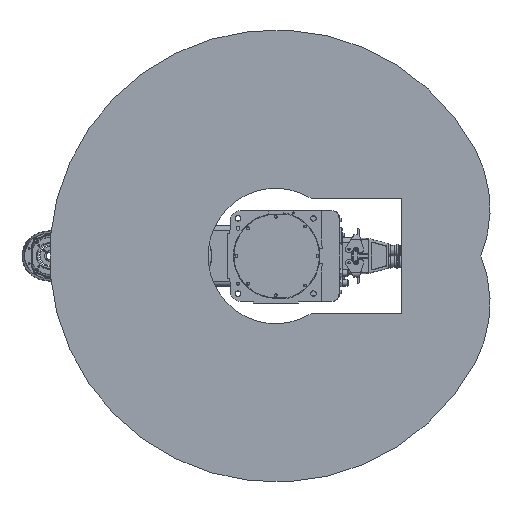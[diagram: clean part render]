
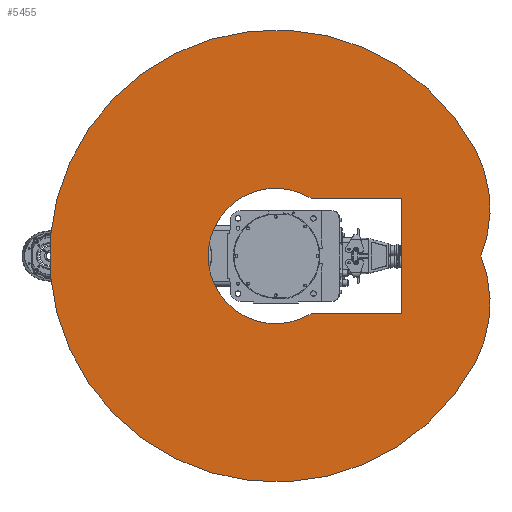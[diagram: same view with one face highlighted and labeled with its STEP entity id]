
A CAD part, front view. The second image highlights one B-rep face of the part: STEP entity #5455.
In plain terms, the highlighted planar face has unit normal (0, -1, 0).
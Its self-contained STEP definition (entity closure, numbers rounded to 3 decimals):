
#5455 = ADVANCED_FACE( '', ( #12805, #12806 ), #12807, .F. );
#12805 = FACE_OUTER_BOUND( '', #22555, .T. );
#12806 = FACE_BOUND( '', #22556, .T. );
#12807 = PLANE( '', #22557 );
#22555 = EDGE_LOOP( '', ( #38520, #38521, #38522 ) );
#22556 = EDGE_LOOP( '', ( #38523, #38524, #38525, #38526 ) );
#22557 = AXIS2_PLACEMENT_3D( '', #38527, #38528, #38529 );
#38520 = ORIENTED_EDGE( '', *, *, #56108, .F. );
#38521 = ORIENTED_EDGE( '', *, *, #55784, .F. );
#38522 = ORIENTED_EDGE( '', *, *, #56109, .F. );
#38523 = ORIENTED_EDGE( '', *, *, #56110, .T. );
#38524 = ORIENTED_EDGE( '', *, *, #56111, .T. );
#38525 = ORIENTED_EDGE( '', *, *, #53435, .T. );
#38526 = ORIENTED_EDGE( '', *, *, #56112, .T. );
#38527 = CARTESIAN_POINT( '', ( 46.947, 0., 88.295 ) );
#38528 = DIRECTION( '', ( 0., 1., 0. ) );
#38529 = DIRECTION( '', ( 0., 0., 1. ) );
#53435 = EDGE_CURVE( '', #64168, #64169, #64170, .T. );
#55784 = EDGE_CURVE( '', #67715, #67716, #67717, .T. );
#56108 = EDGE_CURVE( '', #67716, #68180, #68181, .T. );
#56109 = EDGE_CURVE( '', #68180, #67715, #68182, .T. );
#56110 = EDGE_CURVE( '', #68183, #68184, #68185, .T. );
#56111 = EDGE_CURVE( '', #68184, #64168, #68186, .T. );
#56112 = EDGE_CURVE( '', #64169, #68183, #68187, .T. );
#64168 = VERTEX_POINT( '', #80041 );
#64169 = VERTEX_POINT( '', #80042 );
#64170 = LINE( '', #80043, #80044 );
#67715 = VERTEX_POINT( '', #86698 );
#67716 = VERTEX_POINT( '', #86699 );
#67717 = CIRCLE( '', #86700, 250. );
#68180 = VERTEX_POINT( '', #87575 );
#68181 = CIRCLE( '', #87576, 250. );
#68182 = CIRCLE( '', #87577, 450. );
#68183 = VERTEX_POINT( '', #87578 );
#68184 = VERTEX_POINT( '', #87579 );
#68185 = LINE( '', #87580, #87581 );
#68186 = LINE( '', #87582, #87583 );
#68187 = CIRCLE( '', #87584, 134.76 );
#80041 = CARTESIAN_POINT( '', ( 115., 0., 250. ) );
#80042 = CARTESIAN_POINT( '', ( 115., 0., 70.251 ) );
#80043 = CARTESIAN_POINT( '', ( 115., 0., 250. ) );
#80044 = VECTOR( '', #97563, 1000. );
#86698 = CARTESIAN_POINT( '', ( -211.262, 0., 397.326 ) );
#86699 = CARTESIAN_POINT( '', ( 0., 0., 408.287 ) );
#86700 = AXIS2_PLACEMENT_3D( '', #100221, #100222, #100223 );
#87575 = CARTESIAN_POINT( '', ( 211.262, 0., 397.326 ) );
#87576 = AXIS2_PLACEMENT_3D( '', #100584, #100585, #100586 );
#87577 = AXIS2_PLACEMENT_3D( '', #100587, #100588, #100589 );
#87578 = CARTESIAN_POINT( '', ( -115., 0., 70.251 ) );
#87579 = CARTESIAN_POINT( '', ( -115., 0., 250. ) );
#87580 = CARTESIAN_POINT( '', ( -115., 0., 0. ) );
#87581 = VECTOR( '', #100590, 1000. );
#87582 = CARTESIAN_POINT( '', ( -115., 0., 250. ) );
#87583 = VECTOR( '', #100591, 1000. );
#87584 = AXIS2_PLACEMENT_3D( '', #100592, #100593, #100594 );
#97563 = DIRECTION( '', ( 0., 0., -1. ) );
#100221 = CARTESIAN_POINT( '', ( -93.894, 0., 176.59 ) );
#100222 = DIRECTION( '', ( 0., 1., 0. ) );
#100223 = DIRECTION( '', ( 1., 0., 0. ) );
#100584 = CARTESIAN_POINT( '', ( 93.894, 0., 176.59 ) );
#100585 = DIRECTION( '', ( 0., 1., 0. ) );
#100586 = DIRECTION( '', ( 1., 0., 0. ) );
#100587 = CARTESIAN_POINT( '', ( 0., 0., 0. ) );
#100588 = DIRECTION( '', ( 0., 1., 0. ) );
#100589 = DIRECTION( '', ( 1., 0., 0. ) );
#100590 = DIRECTION( '', ( 0., 0., 1. ) );
#100591 = DIRECTION( '', ( 1., 0., 0. ) );
#100592 = CARTESIAN_POINT( '', ( 0., 0., 0. ) );
#100593 = DIRECTION( '', ( 0., 1., 0. ) );
#100594 = DIRECTION( '', ( 1., 0., 0. ) );
